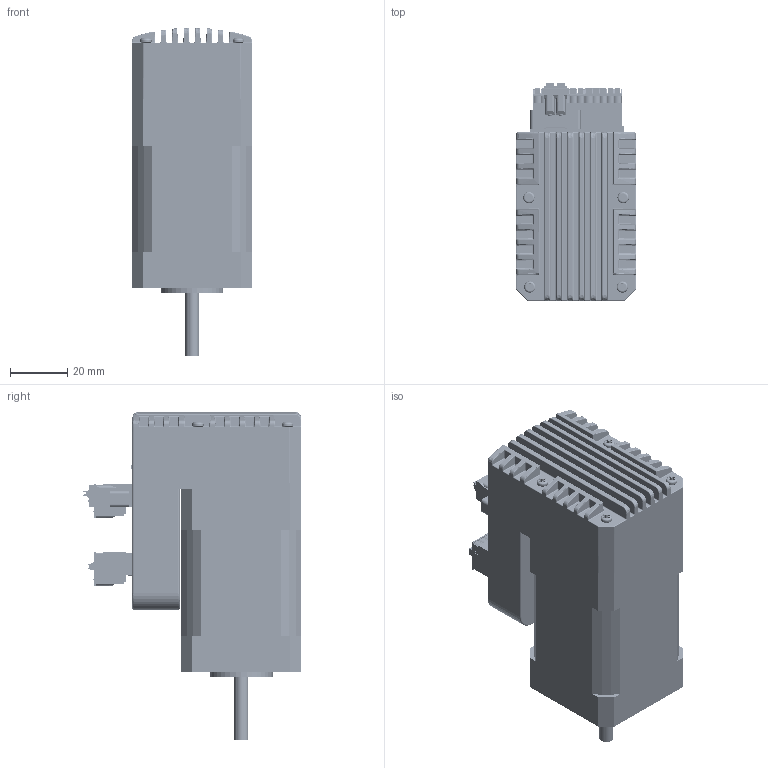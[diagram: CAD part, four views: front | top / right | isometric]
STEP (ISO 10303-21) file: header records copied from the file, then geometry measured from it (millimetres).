
FILE_DESCRIPTION (( 'STEP AP203' ), '1' );
FILE_NAME ('iHSV42-40-05-24.STEP', '2019-09-29T00:50:51', ( 'USER-' ), ( 'MS' ), 'SwSTEP 2.0', 'SolidWorks 2015', '' );
FILE_SCHEMA (( 'CONFIG_CONTROL_DESIGN' ));
Length unit declared in the file: millimetre
Products named in the file (25): 42珨极趙醱啣-N; 15EDGVC-2.5-05P; 42珨极趙PCB1; 15EDGKD-2.5-10P; 15EDGVC-2.5-10P; 9731; 15EDGKDM-3.81-2P; LED_d3-RED; Cap electrolitic radial 6,3x11; 15EDGKD-2.5-5P; LED_d3-GRN; 42珨极趙PCB2; 42-侜督05-24菁裔; M3x6麥芛蹟佪; DPAK_TO-252AA; 42儂旯41mm; M2.5x17.5埴芛蹟佪; 匿鎢苤啣; 42奻裔-40-05-24; 新42一体化散热器; EHS108LDXXJ; iHSV42-40-05-24; 42珨极趙ほ趼倛耀; 3.81 2P-C; 8鎢攫
Assembly tree (32 placements, depth 2):
  iHSV42-40-05-24
    8鎢攫
    42珨极趙PCB1
    9731
    Cap electrolitic radial 6,3x11
    42珨极趙PCB2
    DPAK_TO-252AA
    匿鎢苤啣
    EHS108LDXXJ
    3.81 2P-C
    15EDGVC-2.5-05P
    15EDGVC-2.5-10P
    LED_d3-RED
    LED_d3-GRN
    M3x6麥芛蹟佪  x6
    M2.5x17.5埴芛蹟佪  x4
    新42一体化散热器
    42珨极趙ほ趼倛耀
    42珨极趙醱啣-N
    15EDGKD-2.5-10P
    15EDGKDM-3.81-2P
    15EDGKD-2.5-5P
    42-侜督05-24菁裔
    42儂旯41mm
    42奻裔-40-05-24
Bounding box: 42 x 76.35 x 114.93 mm (x, y, z)
Volume: 158383.3 mm3; surface area: 78315.6 mm2
Topology: 29 solids, 43 shells, 4923 faces, 12785 edges, 8206 vertices
Faces by surface type: plane 2683, cylinder 1584, bspline 361, cone 171, torus 85, sphere 39
Entity records: 158160 total; most frequent: CARTESIAN_POINT 49507, ORIENTED_EDGE 22541, DIRECTION 21098, EDGE_CURVE 11290, VECTOR 7594, LINE 7594, VERTEX_POINT 7232, AXIS2_PLACEMENT_3D 6752
